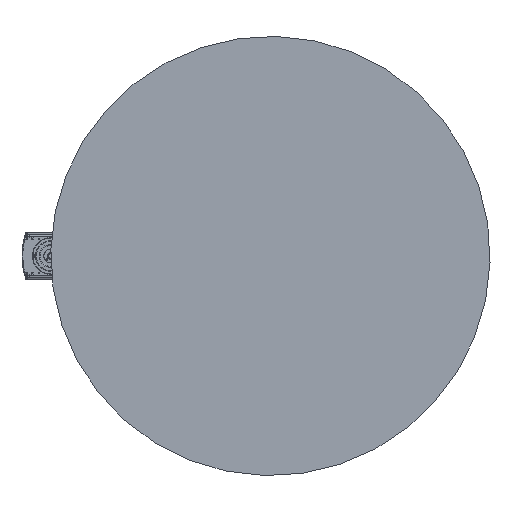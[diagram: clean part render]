
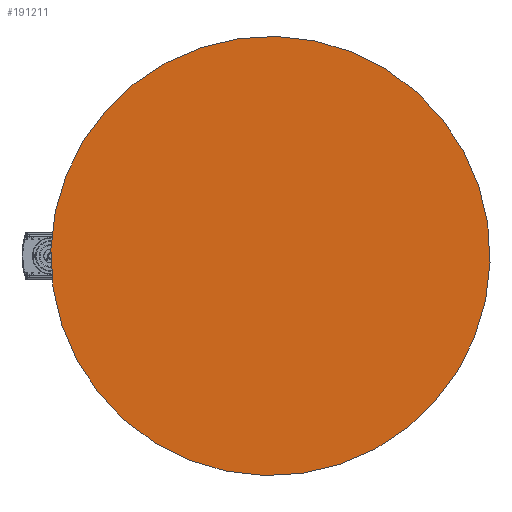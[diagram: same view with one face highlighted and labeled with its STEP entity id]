
A CAD part, front view. The second image highlights one B-rep face of the part: STEP entity #191211.
In plain terms, the highlighted planar face has unit normal (0, -1, 0).
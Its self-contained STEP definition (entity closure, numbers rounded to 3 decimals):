
#2602 = AXIS2_PLACEMENT_3D ( 'NONE', #179350, #72483, #87182 ) ;
#24951 = EDGE_LOOP ( 'NONE', ( #186310, #39952 ) ) ;
#27552 = CARTESIAN_POINT ( 'NONE',  ( 0., 0., 550. ) ) ;
#39952 = ORIENTED_EDGE ( 'NONE', *, *, #65427, .F. ) ;
#40222 = CARTESIAN_POINT ( 'NONE',  ( 0., 0., 0. ) ) ;
#42167 = DIRECTION ( 'NONE',  ( 0., 1., 0. ) ) ;
#52262 = VERTEX_POINT ( 'NONE', #168938 ) ;
#65427 = EDGE_CURVE ( 'NONE', #106098, #52262, #191663, .T. ) ;
#70011 = DIRECTION ( 'NONE',  ( 0., 0., 1. ) ) ;
#72483 = DIRECTION ( 'NONE',  ( 0., 1., 0. ) ) ;
#87182 = DIRECTION ( 'NONE',  ( 0., 0., 1. ) ) ;
#94354 = AXIS2_PLACEMENT_3D ( 'NONE', #188753, #140650, #70011 ) ;
#106098 = VERTEX_POINT ( 'NONE', #27552 ) ;
#120994 = EDGE_CURVE ( 'NONE', #52262, #106098, #171141, .T. ) ;
#124189 = AXIS2_PLACEMENT_3D ( 'NONE', #40222, #42167, #130474 ) ;
#130474 = DIRECTION ( 'NONE',  ( 0., 0., 1. ) ) ;
#135151 = PLANE ( 'NONE',  #2602 ) ;
#140650 = DIRECTION ( 'NONE',  ( 0., 1., 0. ) ) ;
#163680 = FACE_OUTER_BOUND ( 'NONE', #24951, .T. ) ;
#168938 = CARTESIAN_POINT ( 'NONE',  ( 0., 0., -550. ) ) ;
#171141 = CIRCLE ( 'NONE', #124189, 550. ) ;
#179350 = CARTESIAN_POINT ( 'NONE',  ( 0., 0., 0. ) ) ;
#186310 = ORIENTED_EDGE ( 'NONE', *, *, #120994, .F. ) ;
#188753 = CARTESIAN_POINT ( 'NONE',  ( 0., 0., 0. ) ) ;
#191211 = ADVANCED_FACE ( 'NONE', ( #163680 ), #135151, .F. ) ;
#191663 = CIRCLE ( 'NONE', #94354, 550. ) ;
